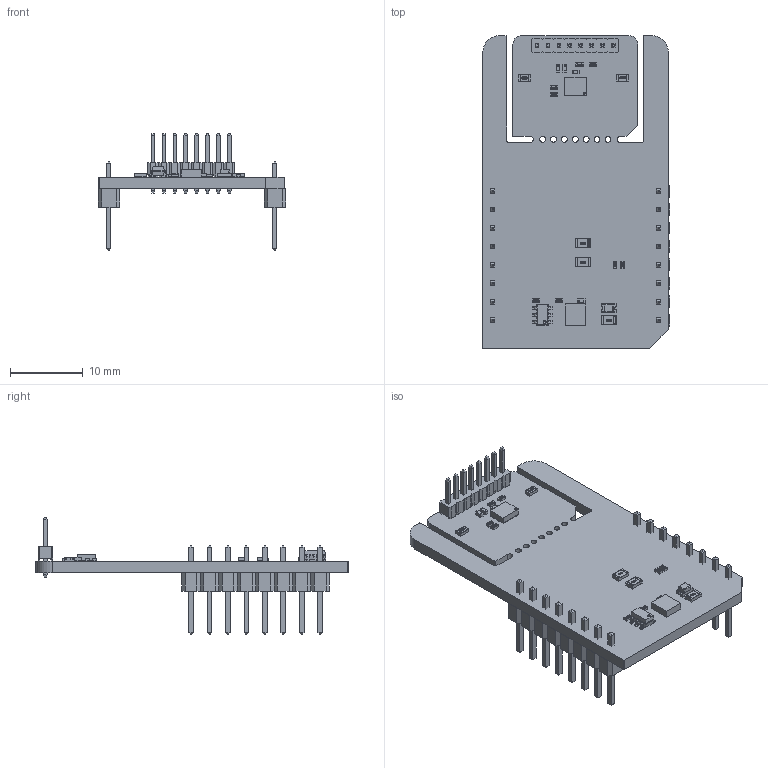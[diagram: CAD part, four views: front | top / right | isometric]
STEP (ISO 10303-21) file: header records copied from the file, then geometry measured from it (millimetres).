
FILE_DESCRIPTION(('Open CASCADE Model'),'2;1');
FILE_NAME('Open CASCADE Shape Model','2025-10-23T12:38:05',('Author'),( 'Open CASCADE'),'Open CASCADE STEP processor 6.8','Open CASCADE 6.8' ,'Unknown');
FILE_SCHEMA(('AUTOMOTIVE_DESIGN { 1 0 10303 214 1 1 1 1 }'));
Length unit declared in the file: millimetre
Products named in the file (43): PCB; Board; MBD1; Header_1x8; Free-Models; 1240637040; User_Library-PinHeaderX5-1_PinHeaderX5_Body_1; User_Library-PinHeaderX5-1_PinHeaderX5_Pins_1; JP3; User_Library-R_0603; JP1; User_Library-R_0805; C2; User_Library-SMD_CAPACITOR0402; C3; C4; J1; YHC150V0GN-108; 1.5-2.0齬渀呿蝶_1-8P; 0.5-8.2; JP2; JP4; R5; User_Library-R_0402; R6; R7; R8; R9; U3; ICM-40627; R4; U2; User_Library-SOT23-6-2; U1; 753044616; Extruded; R2; C1; LD1; led_0805_green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
Assembly tree (64 placements, depth 7):
  PCB
    Board
    MBD1
      Header_1x8  x2
        PCB
          Free-Models
            1240637040  x2
              User_Library-PinHeaderX5-1_PinHeaderX5_Body_1
              User_Library-PinHeaderX5-1_PinHeaderX5_Pins_1
    JP3
      User_Library-R_0603
    JP1
      User_Library-R_0805
    C2
      User_Library-SMD_CAPACITOR0402
    C3
      User_Library-SMD_CAPACITOR0402
    C4
      User_Library-SMD_CAPACITOR0402
    J1
      YHC150V0GN-108
        1.5-2.0齬渀呿蝶_1-8P
        0.5-8.2  x8
    JP2
      User_Library-R_0805
    JP4
      User_Library-R_0603
    R5
      User_Library-R_0402
    R6
      User_Library-R_0402
    R7
      User_Library-R_0402
    R8
      User_Library-R_0402
    R9
      User_Library-R_0402
    U3
      ICM-40627
    R4
      User_Library-R_0402
    U2
      User_Library-SOT23-6-2
    U1
      753044616
        Extruded
    R2
      User_Library-R_0402
    C1
      User_Library-SMD_CAPACITOR0402
    LD1
      led_0805_green
    R1
      User_Library-R_0805
    R3
      User_Library-R_0402
Bounding box: 25.78 x 43.08 x 16.11 mm (x, y, z)
Volume: 2233.9 mm3; surface area: 4257.6 mm2
Topology: 95 solids, 95 shells, 2490 faces, 6219 edges, 3990 vertices
Faces by surface type: plane 1900, bspline 424, cylinder 128, sphere 38
Full cylindrical faces by diameter (mm): 0.8 x7
Entity records: 40705 total; most frequent: CARTESIAN_POINT 12515, ORIENTED_EDGE 5110, DIRECTION 4416, EDGE_CURVE 2555, LINE 2162, VECTOR 2162, VERTEX_POINT 1654, AXIS2_PLACEMENT_3D 1127
